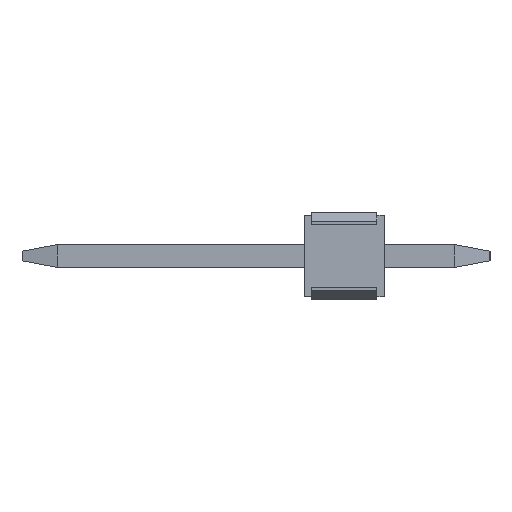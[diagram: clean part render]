
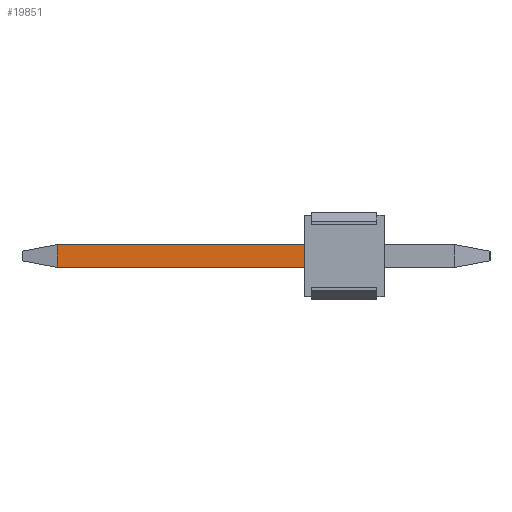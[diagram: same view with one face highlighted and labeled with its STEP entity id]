
A CAD part, left-side view. The second image highlights one B-rep face of the part: STEP entity #19851.
In plain terms, the highlighted planar face has unit normal (-1, 0, 0).
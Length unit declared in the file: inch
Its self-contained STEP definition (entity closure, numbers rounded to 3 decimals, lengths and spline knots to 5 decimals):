
#1023=DIRECTION('',(0.,0.,-1.));
#1024=VECTOR('',#1023,0.026);
#1025=CARTESIAN_POINT('',(-0.613,0.037,0.013));
#1026=LINE('',#1025,#1024);
#6889=DIRECTION('',(0.,0.,-1.));
#6890=VECTOR('',#6889,0.026);
#6891=CARTESIAN_POINT('',(-0.613,0.325,0.013));
#6892=LINE('',#6891,#6890);
#6893=DIRECTION('',(0.,-1.,0.));
#6894=VECTOR('',#6893,0.288);
#6895=CARTESIAN_POINT('',(-0.613,0.325,0.013));
#6896=LINE('',#6895,#6894);
#6897=DIRECTION('',(0.,1.,0.));
#6898=VECTOR('',#6897,0.288);
#6899=CARTESIAN_POINT('',(-0.613,0.037,-0.013));
#6900=LINE('',#6899,#6898);
#8945=CARTESIAN_POINT('',(-0.613,0.037,0.013));
#8946=CARTESIAN_POINT('',(-0.613,0.037,-0.013));
#8947=VERTEX_POINT('',#8945);
#8948=VERTEX_POINT('',#8946);
#9222=CARTESIAN_POINT('',(-0.613,0.325,-0.013));
#9224=VERTEX_POINT('',#9222);
#9229=CARTESIAN_POINT('',(-0.613,0.325,0.013));
#9230=VERTEX_POINT('',#9229);
#19837=CARTESIAN_POINT('',(-0.613,0.,0.));
#19838=DIRECTION('',(1.,0.,0.));
#19839=DIRECTION('',(0.,0.,-1.));
#19840=AXIS2_PLACEMENT_3D('',#19837,#19838,#19839);
#19841=PLANE('',#19840);
#19843=ORIENTED_EDGE('',*,*,#19842,.F.);
#19845=ORIENTED_EDGE('',*,*,#19844,.T.);
#19846=ORIENTED_EDGE('',*,*,#9950,.T.);
#19848=ORIENTED_EDGE('',*,*,#19847,.T.);
#19849=EDGE_LOOP('',(#19843,#19845,#19846,#19848));
#19850=FACE_OUTER_BOUND('',#19849,.F.);
#19851=ADVANCED_FACE('',(#19850),#19841,.F.);
#9950=EDGE_CURVE('',#8947,#8948,#1026,.T.);
#19842=EDGE_CURVE('',#9230,#9224,#6892,.T.);
#19844=EDGE_CURVE('',#9230,#8947,#6896,.T.);
#19847=EDGE_CURVE('',#8948,#9224,#6900,.T.);
